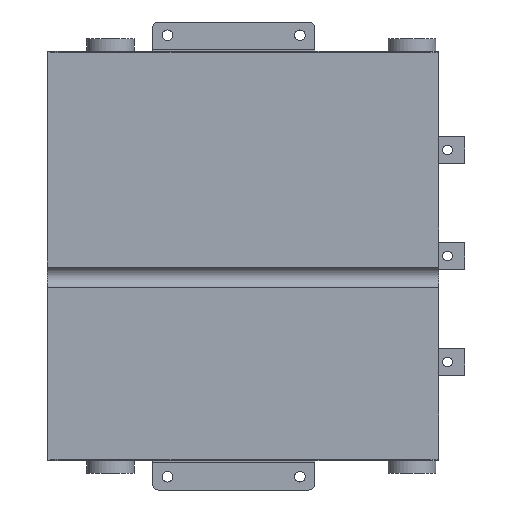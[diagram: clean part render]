
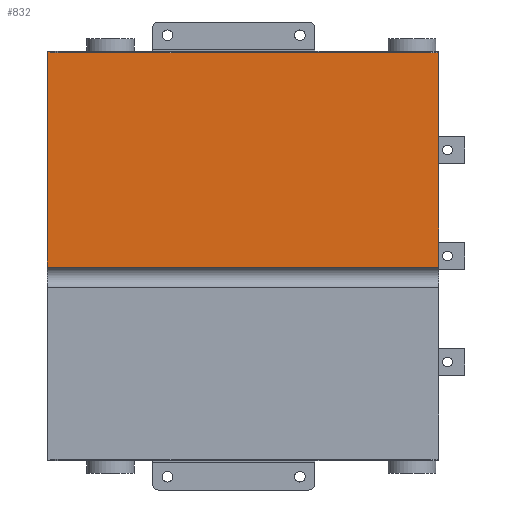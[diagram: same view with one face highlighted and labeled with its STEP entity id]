
A CAD part, front view. The second image highlights one B-rep face of the part: STEP entity #832.
In plain terms, the highlighted planar face has unit normal (0, -1, 0).
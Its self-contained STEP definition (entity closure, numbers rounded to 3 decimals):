
#832=ADVANCED_FACE('',(#3186),#3188,.T.);
#3186=FACE_BOUND('',#3187,.T.);
#3187=EDGE_LOOP('',(#5112,#5113,#5114,#5115,#5116,#5117));
#3188=PLANE('',#3189);
#3189=AXIS2_PLACEMENT_3D('',#3190,#3191,#3192);
#3190=CARTESIAN_POINT('',(443.,-40.,217.519));
#3191=DIRECTION('',(0.,-1.,0.));
#3192=DIRECTION('',(0.,0.,1.));
#5112=ORIENTED_EDGE('',*,*,#6349,.F.);
#5113=ORIENTED_EDGE('',*,*,#6350,.T.);
#5114=ORIENTED_EDGE('',*,*,#6313,.F.);
#5115=ORIENTED_EDGE('',*,*,#6143,.F.);
#5116=ORIENTED_EDGE('',*,*,#6348,.F.);
#5117=ORIENTED_EDGE('',*,*,#6320,.T.);
#6143=EDGE_CURVE('',#6977,#6979,#6980,.T.);
#6313=EDGE_CURVE('',#6979,#7281,#7282,.T.);
#6320=EDGE_CURVE('',#7294,#7295,#7296,.T.);
#6348=EDGE_CURVE('',#7294,#6977,#7344,.T.);
#6349=EDGE_CURVE('',#7345,#7295,#7346,.F.);
#6350=EDGE_CURVE('',#7345,#7281,#7347,.T.);
#6977=VERTEX_POINT('',#8521);
#6979=VERTEX_POINT('',#8525);
#6980=LINE('',#8526,#8527);
#7281=VERTEX_POINT('',#9199);
#7282=LINE('',#9200,#9201);
#7294=VERTEX_POINT('',#9229);
#7295=VERTEX_POINT('',#9230);
#7296=LINE('',#9231,#9232);
#7344=LINE('',#9344,#9345);
#7345=VERTEX_POINT('',#9347);
#7346=LINE('',#9348,#9349);
#7347=LINE('',#9351,#9352);
#8521=CARTESIAN_POINT('',(0.,-40.,217.519));
#8525=CARTESIAN_POINT('',(0.,-40.,462.));
#8526=CARTESIAN_POINT('',(0.,-40.,217.519));
#8527=VECTOR('',#8528,1.);
#8528=DIRECTION('',(0.,0.,1.));
#9199=CARTESIAN_POINT('',(3.589,-40.,462.));
#9200=CARTESIAN_POINT('',(0.,-40.,462.));
#9201=VECTOR('',#9202,1.);
#9202=DIRECTION('',(1.,0.,0.));
#9229=CARTESIAN_POINT('',(443.,-40.,217.519));
#9230=CARTESIAN_POINT('',(443.,-40.,460.));
#9231=CARTESIAN_POINT('',(443.,-40.,217.519));
#9232=VECTOR('',#9233,1.);
#9233=DIRECTION('',(0.,0.,1.));
#9344=CARTESIAN_POINT('',(443.,-40.,217.519));
#9345=VECTOR('',#9346,1.);
#9346=DIRECTION('',(-1.,0.,0.));
#9347=CARTESIAN_POINT('',(3.589,-40.,460.));
#9348=CARTESIAN_POINT('',(443.,-40.,460.));
#9349=VECTOR('',#9350,1.);
#9350=DIRECTION('',(-1.,0.,0.));
#9351=CARTESIAN_POINT('',(3.589,-40.,460.));
#9352=VECTOR('',#9353,1.);
#9353=DIRECTION('',(0.,0.,1.));
